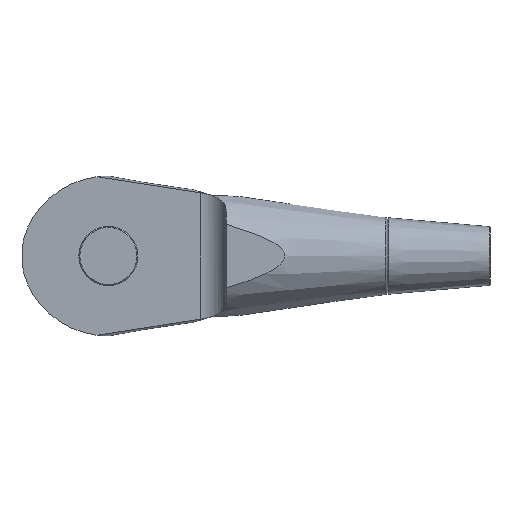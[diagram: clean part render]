
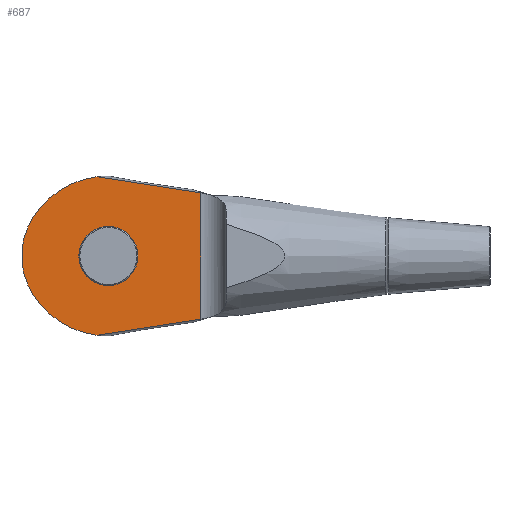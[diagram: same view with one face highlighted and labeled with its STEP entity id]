
A CAD part, left-side view. The second image highlights one B-rep face of the part: STEP entity #687.
In plain terms, the highlighted planar face has unit normal (-1, 0, 0).
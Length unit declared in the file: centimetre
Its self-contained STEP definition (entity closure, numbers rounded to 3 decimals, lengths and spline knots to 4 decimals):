
#21=LINE('',#1239,#41);
#41=VECTOR('',#892,12.8406);
#66=(
BOUNDED_CURVE()
B_SPLINE_CURVE(2,(#1068,#1069,#1070),.UNSPECIFIED.,.F.,.F.)
B_SPLINE_CURVE_WITH_KNOTS((3,3),(0.,11.4724),.UNSPECIFIED.)
CURVE()
GEOMETRIC_REPRESENTATION_ITEM()
RATIONAL_B_SPLINE_CURVE((1.,1.01,1.007))
REPRESENTATION_ITEM('')
);
#70=(
BOUNDED_CURVE()
B_SPLINE_CURVE(2,(#1186,#1187,#1188),.UNSPECIFIED.,.F.,.F.)
B_SPLINE_CURVE_WITH_KNOTS((3,3),(6.9433,18.4157),
 .UNSPECIFIED.)
CURVE()
GEOMETRIC_REPRESENTATION_ITEM()
RATIONAL_B_SPLINE_CURVE((1.007,1.01,1.))
REPRESENTATION_ITEM('')
);
#97=PLANE('',#761);
#123=FACE_BOUND('',#217,.T.);
#158=FACE_OUTER_BOUND('',#216,.T.);
#216=EDGE_LOOP('',(#505,#506,#507,#508,#509,#510));
#217=EDGE_LOOP('',(#511));
#282=CIRCLE('',#750,2.75);
#284=CIRCLE('',#753,9.071);
#286=CIRCLE('',#756,9.071);
#288=CIRCLE('',#759,7.3);
#320=VERTEX_POINT('',#1044);
#321=VERTEX_POINT('',#1067);
#332=VERTEX_POINT('',#1172);
#333=VERTEX_POINT('',#1185);
#335=VERTEX_POINT('',#1219);
#337=VERTEX_POINT('',#1224);
#339=VERTEX_POINT('',#1230);
#383=EDGE_CURVE('',#320,#321,#66,.T.);
#395=EDGE_CURVE('',#332,#333,#70,.T.);
#400=EDGE_CURVE('',#335,#335,#282,.T.);
#402=EDGE_CURVE('',#332,#337,#284,.T.);
#405=EDGE_CURVE('',#339,#321,#286,.T.);
#408=EDGE_CURVE('',#337,#339,#288,.T.);
#410=EDGE_CURVE('',#320,#333,#21,.T.);
#505=ORIENTED_EDGE('',*,*,#402,.T.);
#506=ORIENTED_EDGE('',*,*,#408,.T.);
#507=ORIENTED_EDGE('',*,*,#405,.T.);
#508=ORIENTED_EDGE('',*,*,#383,.F.);
#509=ORIENTED_EDGE('',*,*,#410,.T.);
#510=ORIENTED_EDGE('',*,*,#395,.F.);
#511=ORIENTED_EDGE('',*,*,#400,.T.);
#687=ADVANCED_FACE('',(#158,#123),#97,.F.);
#750=AXIS2_PLACEMENT_3D('',#1220,#866,#867);
#753=AXIS2_PLACEMENT_3D('',#1225,#872,#873);
#756=AXIS2_PLACEMENT_3D('',#1231,#879,#880);
#759=AXIS2_PLACEMENT_3D('',#1236,#886,#887);
#761=AXIS2_PLACEMENT_3D('',#1238,#890,#891);
#866=DIRECTION('center_axis',(1.,0.,0.));
#867=DIRECTION('ref_axis',(0.,-1.,0.));
#872=DIRECTION('center_axis',(-1.,0.,0.));
#873=DIRECTION('ref_axis',(0.,0.,
-1.));
#879=DIRECTION('center_axis',(-1.,0.,0.));
#880=DIRECTION('ref_axis',(0.,-0.847,0.532));
#886=DIRECTION('center_axis',(-1.,0.,0.));
#887=DIRECTION('ref_axis',(0.,-0.847,-0.532));
#890=DIRECTION('center_axis',(1.,0.,0.));
#891=DIRECTION('ref_axis',(0.,-1.,0.));
#892=DIRECTION('',(0.,0.,1.));
#1044=CARTESIAN_POINT('',(-2.,-9.4,-6.4203));
#1067=CARTESIAN_POINT('',(-2.,1.1481,-8.0565));
#1068=CARTESIAN_POINT('Ctrl Pts',(-2.,-9.4,-6.4203));
#1069=CARTESIAN_POINT('Ctrl Pts',(-2.,-4.722,-7.1526));
#1070=CARTESIAN_POINT('Ctrl Pts',(-2.,1.1481,-8.0565));
#1172=CARTESIAN_POINT('',(-2.,1.1481,8.0565));
#1185=CARTESIAN_POINT('',(-2.,-9.4,6.4203));
#1186=CARTESIAN_POINT('Ctrl Pts',(-2.,1.1481,8.0565));
#1187=CARTESIAN_POINT('Ctrl Pts',(-2.,-4.722,7.1526));
#1188=CARTESIAN_POINT('Ctrl Pts',(-2.,-9.4,6.4203));
#1219=CARTESIAN_POINT('',(-2.,2.75,0.));
#1220=CARTESIAN_POINT('Origin',(-2.,0.,0.));
#1224=CARTESIAN_POINT('',(-2.,7.6828,3.881));
#1225=CARTESIAN_POINT('Origin',(-2.,0.,-0.9416));
#1230=CARTESIAN_POINT('',(-2.,7.6828,-3.881));
#1231=CARTESIAN_POINT('Origin',(-2.,0.,0.9416));
#1236=CARTESIAN_POINT('Origin',(-2.,1.5,0.));
#1238=CARTESIAN_POINT('Origin',(-2.,8.8,0.));
#1239=CARTESIAN_POINT('',(-2.,-9.4,0.));
